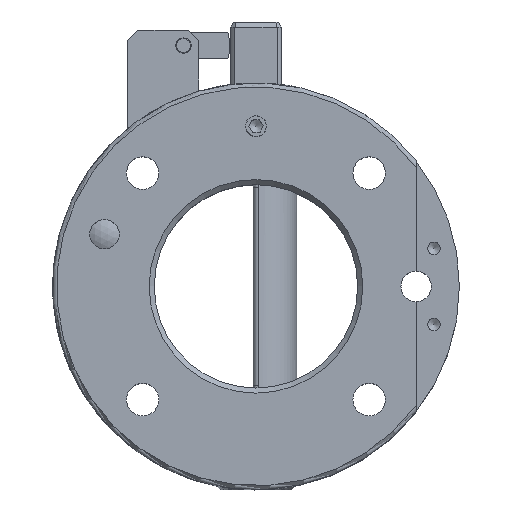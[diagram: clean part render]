
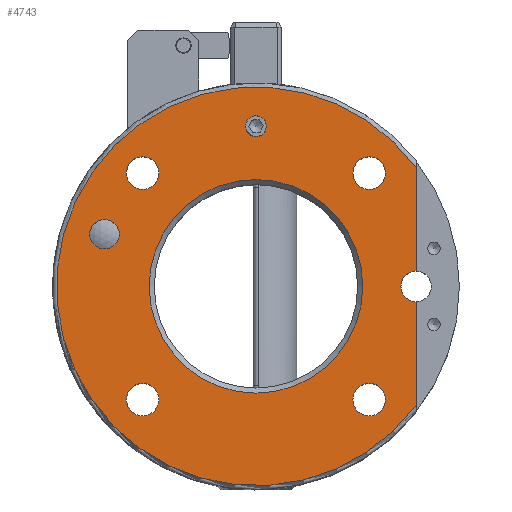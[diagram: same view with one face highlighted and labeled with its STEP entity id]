
A CAD part, top view. The second image highlights one B-rep face of the part: STEP entity #4743.
In plain terms, the highlighted planar face has unit normal (0, 0, 1).
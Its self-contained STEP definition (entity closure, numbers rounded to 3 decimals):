
#2634=CARTESIAN_POINT('',(2.067,31.5,0.0));
#2635=VERTEX_POINT('',#2634);
#2636=CARTESIAN_POINT('',(0.0,31.5,0.0));
#2637=DIRECTION('',(0.0,0.0,-1.0));
#2638=DIRECTION('',(1.0,0.0,0.0));
#2639=AXIS2_PLACEMENT_3D('',#2636,#2637,#2638);
#2640=CIRCLE('',#2639,2.067);
#2641=EDGE_CURVE('',#2635,#2635,#2640,.T.);
#4427=CARTESIAN_POINT('',(-26.884,10.255,0.0));
#4428=VERTEX_POINT('',#4427);
#4429=CARTESIAN_POINT('',(-29.784,10.255,0.0));
#4430=DIRECTION('',(0.0,0.0,-1.0));
#4431=DIRECTION('',(1.0,0.0,0.0));
#4432=AXIS2_PLACEMENT_3D('',#4429,#4430,#4431);
#4433=CIRCLE('',#4432,2.9);
#4434=EDGE_CURVE('',#4428,#4428,#4433,.T.);
#4610=CARTESIAN_POINT('',(31.5,23.332,0.0));
#4611=VERTEX_POINT('',#4610);
#4626=CARTESIAN_POINT('',(31.5,-23.332,0.0));
#4627=VERTEX_POINT('',#4626);
#4641=CARTESIAN_POINT('',(0.0,0.0,0.0));
#4642=DIRECTION('',(0.0,0.0,-1.0));
#4643=DIRECTION('',(-1.0,0.0,0.0));
#4644=AXIS2_PLACEMENT_3D('',#4641,#4642,#4643);
#4645=CIRCLE('',#4644,39.2);
#4646=EDGE_CURVE('',#4627,#4611,#4645,.T.);
#4651=CARTESIAN_POINT('',(0.0,0.0,0.0));
#4652=DIRECTION('',(0.0,0.0,-1.0));
#4653=DIRECTION('',(-1.0,0.0,0.0));
#4654=AXIS2_PLACEMENT_3D('',#4651,#4652,#4653);
#4655=PLANE('',#4654);
#4656=ORIENTED_EDGE('',*,*,#4646,.F.);
#4657=CARTESIAN_POINT('',(31.5,-3.,0.0));
#4658=VERTEX_POINT('',#4657);
#4659=CARTESIAN_POINT('',(31.5,-23.332,0.0));
#4660=DIRECTION('',(0.0,1.0,0.0));
#4661=VECTOR('',#4660,20.332);
#4662=LINE('',#4659,#4661);
#4663=EDGE_CURVE('',#4627,#4658,#4662,.T.);
#4664=ORIENTED_EDGE('',*,*,#4663,.T.);
#4665=CARTESIAN_POINT('',(31.5,3.,0.0));
#4666=VERTEX_POINT('',#4665);
#4667=CARTESIAN_POINT('',(31.5,0.0,0.0));
#4668=DIRECTION('',(0.0,0.0,-1.0));
#4669=DIRECTION('',(1.0,0.0,0.0));
#4670=AXIS2_PLACEMENT_3D('',#4667,#4668,#4669);
#4671=CIRCLE('',#4670,3.);
#4672=EDGE_CURVE('',#4658,#4666,#4671,.T.);
#4673=ORIENTED_EDGE('',*,*,#4672,.T.);
#4674=CARTESIAN_POINT('',(31.5,3.,0.0));
#4675=DIRECTION('',(0.0,1.0,0.0));
#4676=VECTOR('',#4675,20.332);
#4677=LINE('',#4674,#4676);
#4678=EDGE_CURVE('',#4666,#4611,#4677,.T.);
#4679=ORIENTED_EDGE('',*,*,#4678,.T.);
#4680=EDGE_LOOP('',(#4656,#4664,#4673,#4679));
#4681=FACE_OUTER_BOUND('',#4680,.T.);
#4682=ORIENTED_EDGE('',*,*,#4434,.T.);
#4683=EDGE_LOOP('',(#4682));
#4684=FACE_BOUND('',#4683,.T.);
#4685=CARTESIAN_POINT('',(21.0,0.,0.0));
#4686=VERTEX_POINT('',#4685);
#4687=CARTESIAN_POINT('',(0.0,0.0,0.0));
#4688=DIRECTION('',(0.0,0.0,1.0));
#4689=DIRECTION('',(-1.0,0.0,0.0));
#4690=AXIS2_PLACEMENT_3D('',#4687,#4688,#4689);
#4691=CIRCLE('',#4690,21.0);
#4692=EDGE_CURVE('',#4686,#4686,#4691,.T.);
#4693=ORIENTED_EDGE('',*,*,#4692,.F.);
#4694=EDGE_LOOP('',(#4693));
#4695=FACE_BOUND('',#4694,.T.);
#4696=ORIENTED_EDGE('',*,*,#2641,.T.);
#4697=EDGE_LOOP('',(#4696));
#4698=FACE_BOUND('',#4697,.T.);
#4699=CARTESIAN_POINT('',(25.474,-22.274,0.0));
#4700=VERTEX_POINT('',#4699);
#4701=CARTESIAN_POINT('',(22.274,-22.274,0.0));
#4702=DIRECTION('',(0.0,0.0,-1.0));
#4703=DIRECTION('',(-1.0,0.0,0.0));
#4704=AXIS2_PLACEMENT_3D('',#4701,#4702,#4703);
#4705=CIRCLE('',#4704,3.2);
#4706=EDGE_CURVE('',#4700,#4700,#4705,.T.);
#4707=ORIENTED_EDGE('',*,*,#4706,.T.);
#4708=EDGE_LOOP('',(#4707));
#4709=FACE_BOUND('',#4708,.T.);
#4710=CARTESIAN_POINT('',(-19.074,-22.274,0.0));
#4711=VERTEX_POINT('',#4710);
#4712=CARTESIAN_POINT('',(-22.274,-22.274,0.0));
#4713=DIRECTION('',(0.0,0.0,-1.0));
#4714=DIRECTION('',(-1.0,0.0,0.0));
#4715=AXIS2_PLACEMENT_3D('',#4712,#4713,#4714);
#4716=CIRCLE('',#4715,3.2);
#4717=EDGE_CURVE('',#4711,#4711,#4716,.T.);
#4718=ORIENTED_EDGE('',*,*,#4717,.T.);
#4719=EDGE_LOOP('',(#4718));
#4720=FACE_BOUND('',#4719,.T.);
#4721=CARTESIAN_POINT('',(-19.074,22.274,0.0));
#4722=VERTEX_POINT('',#4721);
#4723=CARTESIAN_POINT('',(-22.274,22.274,0.0));
#4724=DIRECTION('',(0.0,0.0,-1.0));
#4725=DIRECTION('',(-1.0,0.0,0.0));
#4726=AXIS2_PLACEMENT_3D('',#4723,#4724,#4725);
#4727=CIRCLE('',#4726,3.2);
#4728=EDGE_CURVE('',#4722,#4722,#4727,.T.);
#4729=ORIENTED_EDGE('',*,*,#4728,.T.);
#4730=EDGE_LOOP('',(#4729));
#4731=FACE_BOUND('',#4730,.T.);
#4732=CARTESIAN_POINT('',(25.474,22.274,0.0));
#4733=VERTEX_POINT('',#4732);
#4734=CARTESIAN_POINT('',(22.274,22.274,0.0));
#4735=DIRECTION('',(0.0,0.0,-1.0));
#4736=DIRECTION('',(-1.0,0.0,0.0));
#4737=AXIS2_PLACEMENT_3D('',#4734,#4735,#4736);
#4738=CIRCLE('',#4737,3.2);
#4739=EDGE_CURVE('',#4733,#4733,#4738,.T.);
#4740=ORIENTED_EDGE('',*,*,#4739,.T.);
#4741=EDGE_LOOP('',(#4740));
#4742=FACE_BOUND('',#4741,.T.);
#4743=ADVANCED_FACE('',(#4681,#4684,#4695,#4698,#4709,#4720,#4731,#4742),#4655,.F.);
